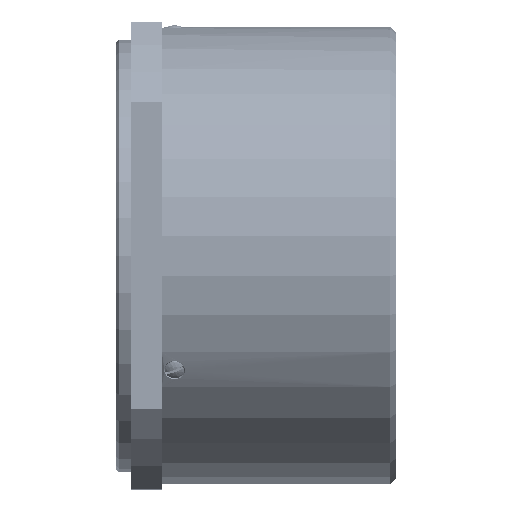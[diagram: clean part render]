
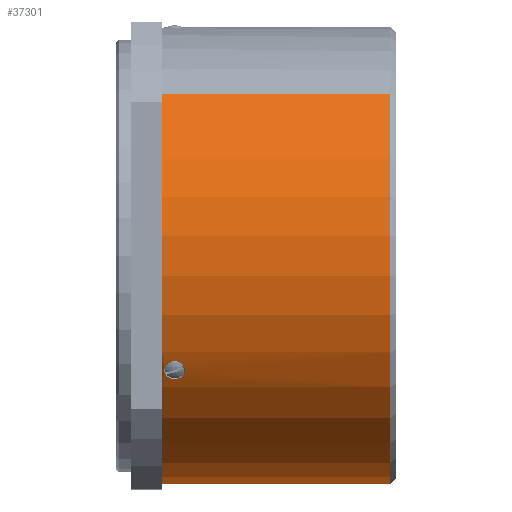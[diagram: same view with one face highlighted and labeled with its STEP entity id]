
A CAD part, top view. The second image highlights one B-rep face of the part: STEP entity #37301.
In plain terms, the highlighted cylindrical face has radius 45 mm (diameter 90 mm), a partial arc.
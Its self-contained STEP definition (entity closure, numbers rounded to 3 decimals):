
#1090 = DIRECTION ( 'NONE',  ( 0., 0.706, 0.708 ) ) ;
#3463 = CARTESIAN_POINT ( 'NONE',  ( 59.348, 63.841, 62.152 ) ) ;
#5641 = EDGE_LOOP ( 'NONE', ( #56145, #79968, #37151, #140057 ) ) ;
#6506 = VERTEX_POINT ( 'NONE', #102883 ) ;
#8430 = AXIS2_PLACEMENT_3D ( 'NONE', #127441, #57835, #139118 ) ;
#9361 = CARTESIAN_POINT ( 'NONE',  ( 17.38, 11.281, 70.222 ) ) ;
#9867 = CARTESIAN_POINT ( 'NONE',  ( 18.609, 8.624, 68.722 ) ) ;
#10398 = VECTOR ( 'NONE', #132952, 1000. ) ;
#10660 = CARTESIAN_POINT ( 'NONE',  ( 15.226, 10.623, 69.873 ) ) ;
#12477 = CARTESIAN_POINT ( 'NONE',  ( 14.348, 32.052, 30.302 ) ) ;
#12901 = EDGE_CURVE ( 'NONE', #118124, #33764, #107954, .T. ) ;
#14098 = CARTESIAN_POINT ( 'NONE',  ( 16.848, 7.748, 68.174 ) ) ;
#16632 = CYLINDRICAL_SURFACE ( 'NONE', #110725, 45. ) ;
#17079 = EDGE_CURVE ( 'NONE', #146106, #6506, #85078, .T. ) ;
#17355 = VERTEX_POINT ( 'NONE', #3463 ) ;
#18499 = CARTESIAN_POINT ( 'NONE',  ( 59.348, 0.262, -1.548 ) ) ;
#21161 = CARTESIAN_POINT ( 'NONE',  ( 17.872, 11.096, 70.125 ) ) ;
#21666 = CARTESIAN_POINT ( 'NONE',  ( 18.375, 8.341, 68.549 ) ) ;
#21960 = CARTESIAN_POINT ( 'NONE',  ( 15.826, 7.969, 68.315 ) ) ;
#22450 = CARTESIAN_POINT ( 'NONE',  ( 15.611, 10.953, 70.049 ) ) ;
#23714 = DIRECTION ( 'NONE',  ( -1., 0., 0. ) ) ;
#31843 = CARTESIAN_POINT ( 'NONE',  ( 16.85, 11.329, 70.246 ) ) ;
#32742 = DIRECTION ( 'NONE',  ( -1., 0., 0. ) ) ;
#32853 = CARTESIAN_POINT ( 'NONE',  ( 18.377, 10.707, 69.918 ) ) ;
#33353 = CARTESIAN_POINT ( 'NONE',  ( 17.87, 7.969, 68.315 ) ) ;
#33634 = CARTESIAN_POINT ( 'NONE',  ( 15.225, 8.424, 68.6 ) ) ;
#33764 = VERTEX_POINT ( 'NONE', #14098 ) ;
#34135 = CARTESIAN_POINT ( 'NONE',  ( 15.947, 11.142, 70.149 ) ) ;
#37151 = ORIENTED_EDGE ( 'NONE', *, *, #58608, .T. ) ;
#37301 = ADVANCED_FACE ( 'NONE', ( #89382, #120362 ), #16632, .T. ) ;
#41937 = CIRCLE ( 'NONE', #8430, 45. ) ;
#43239 = VERTEX_POINT ( 'NONE', #18499 ) ;
#44551 = CARTESIAN_POINT ( 'NONE',  ( 18.609, 10.417, 69.76 ) ) ;
#45045 = CARTESIAN_POINT ( 'NONE',  ( 17.112, 7.748, 68.174 ) ) ;
#45347 = CARTESIAN_POINT ( 'NONE',  ( 14.923, 8.941, 68.914 ) ) ;
#45865 = CARTESIAN_POINT ( 'NONE',  ( 16.585, 11.329, 70.246 ) ) ;
#53703 = EDGE_CURVE ( 'NONE', #43239, #146106, #85894, .T. ) ;
#54739 = AXIS2_PLACEMENT_3D ( 'NONE', #102370, #32742, #113995 ) ;
#56145 = ORIENTED_EDGE ( 'NONE', *, *, #53703, .F. ) ;
#56217 = CARTESIAN_POINT ( 'NONE',  ( 18.824, 9.983, 69.52 ) ) ;
#56993 = CARTESIAN_POINT ( 'NONE',  ( 14.833, 9.281, 69.115 ) ) ;
#57835 = DIRECTION ( 'NONE',  ( -1., 0., 0. ) ) ;
#58608 = EDGE_CURVE ( 'NONE', #17355, #6506, #130476, .T. ) ;
#59926 = CARTESIAN_POINT ( 'NONE',  ( 14.348, 0.262, -1.548 ) ) ;
#67424 = CARTESIAN_POINT ( 'NONE',  ( 17.115, 11.329, 70.246 ) ) ;
#67908 = CARTESIAN_POINT ( 'NONE',  ( 18.876, 9.279, 69.115 ) ) ;
#68199 = CARTESIAN_POINT ( 'NONE',  ( 16.58, 7.748, 68.175 ) ) ;
#68704 = CARTESIAN_POINT ( 'NONE',  ( 14.82, 9.749, 69.387 ) ) ;
#74536 = EDGE_CURVE ( 'NONE', #33764, #118124, #142659, .T. ) ;
#79545 = CARTESIAN_POINT ( 'NONE',  ( 18.671, 8.725, 68.784 ) ) ;
#79968 = ORIENTED_EDGE ( 'NONE', *, *, #124651, .T. ) ;
#80328 = CARTESIAN_POINT ( 'NONE',  ( 15.076, 10.423, 69.764 ) ) ;
#82581 = ORIENTED_EDGE ( 'NONE', *, *, #74536, .T. ) ;
#85078 = CIRCLE ( 'NONE', #54739, 45. ) ;
#85676 = EDGE_LOOP ( 'NONE', ( #82581, #108795 ) ) ;
#85894 = LINE ( 'NONE', #147288, #109561 ) ;
#89382 = FACE_OUTER_BOUND ( 'NONE', #5641, .T. ) ;
#91221 = CARTESIAN_POINT ( 'NONE',  ( 18.46, 8.431, 68.604 ) ) ;
#91505 = CARTESIAN_POINT ( 'NONE',  ( 16.318, 7.793, 68.203 ) ) ;
#92024 = CARTESIAN_POINT ( 'NONE',  ( 15.507, 10.877, 70.008 ) ) ;
#100091 = DIRECTION ( 'NONE',  ( -1., 0., 0. ) ) ;
#101586 = CARTESIAN_POINT ( 'NONE',  ( 16.85, 11.329, 70.246 ) ) ;
#102370 = CARTESIAN_POINT ( 'NONE',  ( 14.348, 32.052, 30.302 ) ) ;
#102486 = CARTESIAN_POINT ( 'NONE',  ( 18.094, 10.962, 70.054 ) ) ;
#102883 = CARTESIAN_POINT ( 'NONE',  ( 14.348, 63.841, 62.152 ) ) ;
#102999 = CARTESIAN_POINT ( 'NONE',  ( 18.094, 8.098, 68.397 ) ) ;
#103296 = CARTESIAN_POINT ( 'NONE',  ( 15.602, 8.098, 68.397 ) ) ;
#103797 = CARTESIAN_POINT ( 'NONE',  ( 15.831, 11.086, 70.12 ) ) ;
#107954 = B_SPLINE_CURVE_WITH_KNOTS ( 'NONE', 3,
 ( #31843, #67424, #9361, #21161, #102486, #32853, #114121, #44551, #125791, #56217, #137483, #67908, #149147, #79545, #9867, #91221, #21666, #102999, #33353, #114612, #45045, #126298 ),
 .UNSPECIFIED., .F., .F.,
 ( 4, 2, 2, 2, 2, 2, 2, 2, 2, 2, 4 ),
 ( 0.5, 0.563, 0.625, 0.656, 0.688, 0.75, 0.813, 0.844, 0.875, 0.938, 1. ),
 .UNSPECIFIED. ) ;
#108795 = ORIENTED_EDGE ( 'NONE', *, *, #12901, .T. ) ;
#109126 = CARTESIAN_POINT ( 'NONE',  ( 14.348, 63.841, 62.152 ) ) ;
#109561 = VECTOR ( 'NONE', #100091, 1000. ) ;
#110725 = AXIS2_PLACEMENT_3D ( 'NONE', #12477, #23714, #1090 ) ;
#113995 = DIRECTION ( 'NONE',  ( 0., 0.706, 0.708 ) ) ;
#114121 = CARTESIAN_POINT ( 'NONE',  ( 18.462, 10.614, 69.868 ) ) ;
#114612 = CARTESIAN_POINT ( 'NONE',  ( 17.378, 7.793, 68.203 ) ) ;
#114903 = CARTESIAN_POINT ( 'NONE',  ( 15.075, 8.619, 68.72 ) ) ;
#115424 = CARTESIAN_POINT ( 'NONE',  ( 16.317, 11.281, 70.222 ) ) ;
#118124 = VERTEX_POINT ( 'NONE', #101586 ) ;
#120362 = FACE_BOUND ( 'NONE', #85676, .T. ) ;
#124651 = EDGE_CURVE ( 'NONE', #43239, #17355, #41937, .T. ) ;
#125791 = CARTESIAN_POINT ( 'NONE',  ( 18.671, 10.313, 69.703 ) ) ;
#126298 = CARTESIAN_POINT ( 'NONE',  ( 16.848, 7.748, 68.174 ) ) ;
#126583 = CARTESIAN_POINT ( 'NONE',  ( 14.885, 9.051, 68.98 ) ) ;
#127073 = CARTESIAN_POINT ( 'NONE',  ( 16.85, 11.329, 70.246 ) ) ;
#127441 = CARTESIAN_POINT ( 'NONE',  ( 59.348, 32.052, 30.302 ) ) ;
#130476 = LINE ( 'NONE', #109126, #10398 ) ;
#132952 = DIRECTION ( 'NONE',  ( -1., 0., 0. ) ) ;
#137483 = CARTESIAN_POINT ( 'NONE',  ( 18.877, 9.749, 69.387 ) ) ;
#138268 = CARTESIAN_POINT ( 'NONE',  ( 14.82, 9.398, 69.184 ) ) ;
#139118 = DIRECTION ( 'NONE',  ( 0., 0.706, 0.708 ) ) ;
#140057 = ORIENTED_EDGE ( 'NONE', *, *, #17079, .F. ) ;
#142659 = B_SPLINE_CURVE_WITH_KNOTS ( 'NONE', 3,
 ( #149434, #68199, #91505, #21960, #103296, #33634, #114903, #45347, #126583, #56993, #138268, #68704, #149916, #80328, #10660, #92024, #22450, #103797, #34135, #115424, #45865, #127073 ),
 .UNSPECIFIED., .F., .F.,
 ( 4, 2, 2, 2, 2, 2, 2, 2, 2, 2, 4 ),
 ( 0., 0.063, 0.125, 0.188, 0.219, 0.25, 0.312, 0.375, 0.406, 0.437, 0.5 ),
 .UNSPECIFIED. ) ;
#146106 = VERTEX_POINT ( 'NONE', #59926 ) ;
#147288 = CARTESIAN_POINT ( 'NONE',  ( 14.348, 0.262, -1.548 ) ) ;
#149147 = CARTESIAN_POINT ( 'NONE',  ( 18.823, 9.046, 68.977 ) ) ;
#149434 = CARTESIAN_POINT ( 'NONE',  ( 16.848, 7.748, 68.174 ) ) ;
#149916 = CARTESIAN_POINT ( 'NONE',  ( 14.872, 9.984, 69.52 ) ) ;
